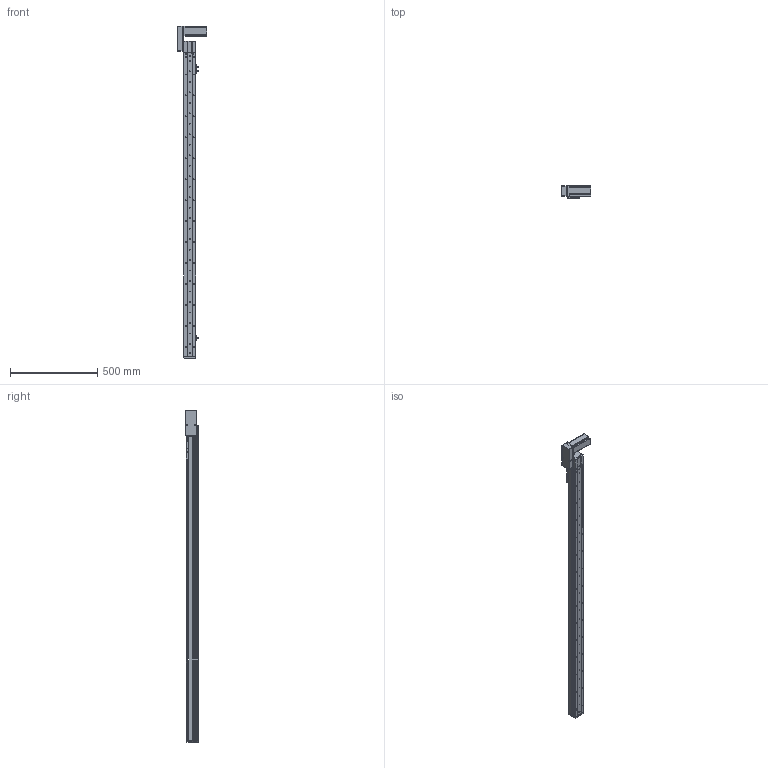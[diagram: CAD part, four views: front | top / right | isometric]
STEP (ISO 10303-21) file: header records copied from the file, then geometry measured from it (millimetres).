
FILE_DESCRIPTION (( 'STEP AP214' ), '1' );
FILE_NAME ('KSD68BS-S1550-MRB-CM.STEP', '2019-11-06T08:01:41', ( '微软用户' ), ( '微软中国' ), 'SwSTEP 2.0', 'SolidWorks 2014', '' );
FILE_SCHEMA (( 'AUTOMOTIVE_DESIGN' ));
Length unit declared in the file: millimetre
Products named in the file (11): 悵誘欶奻狟殏; 68宽马达安装板连板上折同步带; 68宽单导轨半封闭同步带主动轮座右; 68单导轨同步带半封闭端板; KSD68BS 1550俴最裔啣圉猾敕; 覜茼え68遵圉猾敕; KSD68BS半封闭同步带传动导轨座; U倰嫖萇EEㄜSX672; 台达ECMA－C20604AS伺服电机（400W); KSD68BS 1550俴最菁啣圉猾敕; KSD68BS-S1550-MRB-CM
Assembly tree (12 placements, depth 2):
  KSD68BS-S1550-MRB-CM
    KSD68BS 1550俴最菁啣圉猾敕
    台达ECMA－C20604AS伺服电机（400W)
    U倰嫖萇EEㄜSX672  x3
    KSD68BS半封闭同步带传动导轨座
    覜茼え68遵圉猾敕
    KSD68BS 1550俴最裔啣圉猾敕
    68单导轨同步带半封闭端板
    68宽单导轨半封闭同步带主动轮座右
    68宽马达安装板连板上折同步带
    悵誘欶奻狟殏
Bounding box: 167.2 x 70.5 x 1899.5 mm (x, y, z)
Volume: 3064479.8 mm3; surface area: 1133385.2 mm2
Topology: 13 solids, 13 shells, 1574 faces, 4604 edges, 3000 vertices
Faces by surface type: cylinder 826, plane 665, cone 83
Entity records: 61161 total; most frequent: CARTESIAN_POINT 12274, ORIENTED_EDGE 7960, DIRECTION 7708, EDGE_CURVE 3980, AXIS2_PLACEMENT_3D 2778, VERTEX_POINT 2624, VECTOR 2152, LINE 2152
